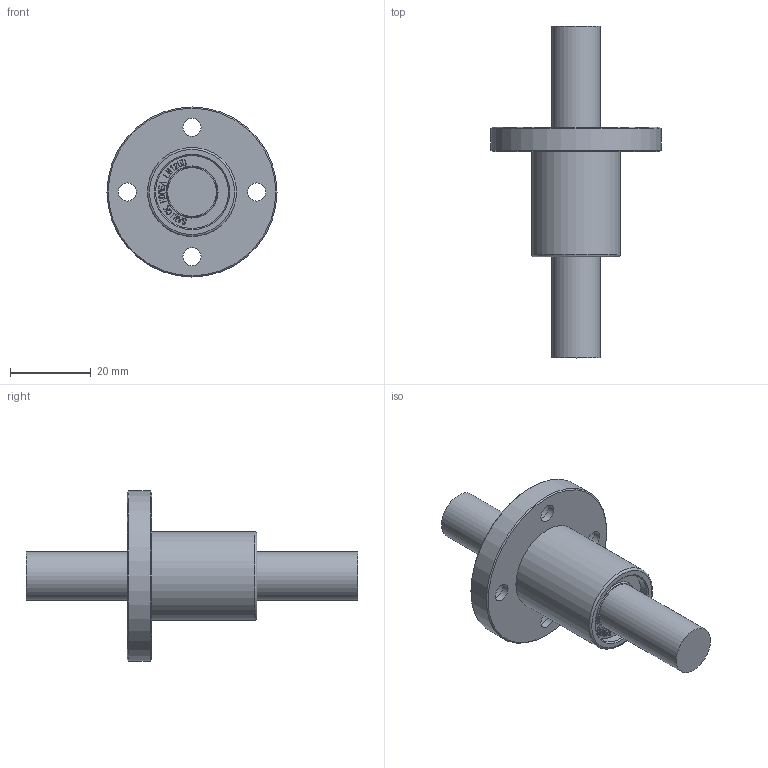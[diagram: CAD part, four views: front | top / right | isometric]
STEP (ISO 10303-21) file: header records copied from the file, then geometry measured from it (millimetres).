
FILE_DESCRIPTION(/* description */ (''),/* implementation_level */ '2;1');
FILE_NAME(/* name */ 'W:\(01) 2024년 홈페이지 CAD파일 최신화\LMEF\IPT\LMEF12UU.stp',/* time_stamp */ '2025-01-25T10:27:53+09:00',/* author */ ('서우현'),/* organization */ (''),/* preprocessor_version */ 'ST-DEVELOPER v17.2',/* originating_system */ 'Autodesk Inventor 2019',/* authorisation */ '');
FILE_SCHEMA (('AUTOMOTIVE_DESIGN { 1 0 10303 214 3 1 1 }'));
Length unit declared in the file: millimetre
Products named in the file (1): LM5
Bounding box: 42 x 82 x 42 mm (x, y, z)
Volume: 22231.9 mm3; surface area: 8061.4 mm2
Topology: 1 solids, 1 shells, 835 faces, 2363 edges, 1584 vertices
Faces by surface type: bspline 580, plane 232, cylinder 15, cone 6, torus 2
Full cylindrical faces by diameter (mm): 4.5 x4, 8 x4, 12 x2, 18 x2, 22 x2, 42 x1
Entity records: 28860 total; most frequent: CARTESIAN_POINT 10663, ORIENTED_EDGE 4726, EDGE_CURVE 2363, DIRECTION 1789, VERTEX_POINT 1584, B_SPLINE_CURVE_WITH_KNOTS 1160, LINE 1129, VECTOR 1129
